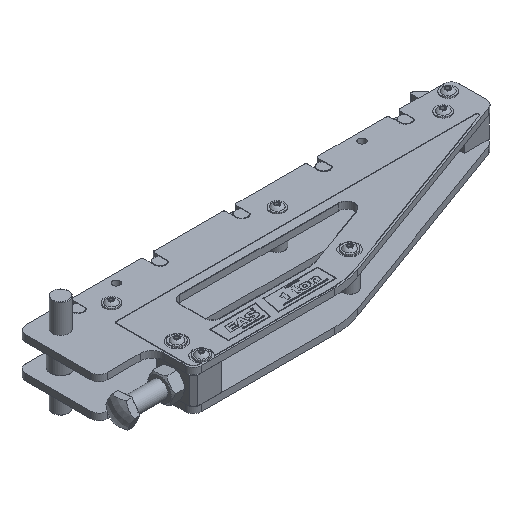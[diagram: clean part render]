
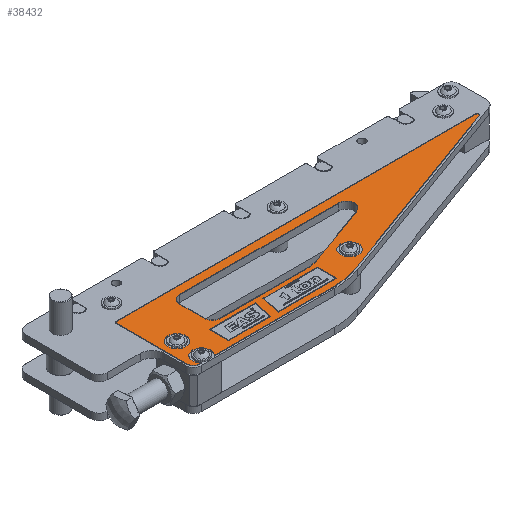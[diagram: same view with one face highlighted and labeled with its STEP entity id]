
A CAD part, isometric view. The second image highlights one B-rep face of the part: STEP entity #38432.
In plain terms, the highlighted planar face has unit normal (0, 0, 1).
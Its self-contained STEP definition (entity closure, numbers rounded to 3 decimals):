
#2291=FACE_BOUND('',#6783,.T.);
#2292=FACE_BOUND('',#6784,.T.);
#2293=FACE_BOUND('',#6785,.T.);
#2294=FACE_BOUND('',#6786,.T.);
#2295=FACE_BOUND('',#6787,.T.);
#2759=PLANE('',#40791);
#4446=FACE_OUTER_BOUND('',#6782,.T.);
#6782=EDGE_LOOP('',(#29060,#29061,#29062,#29063,#29064,#29065,#29066,#29067,
#29068,#29069));
#6783=EDGE_LOOP('',(#29070));
#6784=EDGE_LOOP('',(#29071));
#6785=EDGE_LOOP('',(#29072,#29073,#29074,#29075,#29076,#29077,#29078,#29079));
#6786=EDGE_LOOP('',(#29080,#29081,#29082,#29083));
#6787=EDGE_LOOP('',(#29084,#29085,#29086,#29087));
#9319=LINE('',#54261,#13459);
#9320=LINE('',#54265,#13460);
#9321=LINE('',#54269,#13461);
#9322=LINE('',#54273,#13462);
#9323=LINE('',#54276,#13463);
#9324=LINE('',#54285,#13464);
#9325=LINE('',#54289,#13465);
#9326=LINE('',#54293,#13466);
#9327=LINE('',#54296,#13467);
#9328=LINE('',#54299,#13468);
#9329=LINE('',#54301,#13469);
#9330=LINE('',#54303,#13470);
#9331=LINE('',#54304,#13471);
#9332=LINE('',#54307,#13472);
#9333=LINE('',#54309,#13473);
#9334=LINE('',#54311,#13474);
#9335=LINE('',#54312,#13475);
#13459=VECTOR('',#44229,438.315);
#13460=VECTOR('',#44232,86.);
#13461=VECTOR('',#44235,2.45);
#13462=VECTOR('',#44238,145.07);
#13463=VECTOR('',#44241,252.063);
#13464=VECTOR('',#44248,103.81);
#13465=VECTOR('',#44251,30.);
#13466=VECTOR('',#44254,193.287);
#13467=VECTOR('',#44257,80.661);
#13468=VECTOR('',#44258,24.025);
#13469=VECTOR('',#44259,66.405);
#13470=VECTOR('',#44260,23.5);
#13471=VECTOR('',#44261,71.4);
#13472=VECTOR('',#44262,51.122);
#13473=VECTOR('',#44263,23.5);
#13474=VECTOR('',#44264,56.117);
#13475=VECTOR('',#44265,24.025);
#17128=CIRCLE('',#40790,2.);
#17129=CIRCLE('',#40792,2.);
#17130=CIRCLE('',#40793,8.);
#17131=CIRCLE('',#40794,11.);
#17132=CIRCLE('',#40795,98.);
#17133=CIRCLE('',#40796,11.);
#17134=CIRCLE('',#40797,11.);
#17135=CIRCLE('',#40798,50.);
#17136=CIRCLE('',#40799,10.);
#17137=CIRCLE('',#40800,10.);
#17138=CIRCLE('',#40801,10.);
#18033=VERTEX_POINT('',#54254);
#18034=VERTEX_POINT('',#54256);
#18035=VERTEX_POINT('',#54260);
#18036=VERTEX_POINT('',#54262);
#18037=VERTEX_POINT('',#54264);
#18038=VERTEX_POINT('',#54266);
#18039=VERTEX_POINT('',#54268);
#18040=VERTEX_POINT('',#54270);
#18041=VERTEX_POINT('',#54272);
#18042=VERTEX_POINT('',#54274);
#18043=VERTEX_POINT('',#54277);
#18044=VERTEX_POINT('',#54279);
#18045=VERTEX_POINT('',#54281);
#18046=VERTEX_POINT('',#54282);
#18047=VERTEX_POINT('',#54284);
#18048=VERTEX_POINT('',#54286);
#18049=VERTEX_POINT('',#54288);
#18050=VERTEX_POINT('',#54290);
#18051=VERTEX_POINT('',#54292);
#18052=VERTEX_POINT('',#54294);
#18053=VERTEX_POINT('',#54297);
#18054=VERTEX_POINT('',#54298);
#18055=VERTEX_POINT('',#54300);
#18056=VERTEX_POINT('',#54302);
#18057=VERTEX_POINT('',#54305);
#18058=VERTEX_POINT('',#54306);
#18059=VERTEX_POINT('',#54308);
#18060=VERTEX_POINT('',#54310);
#22188=EDGE_CURVE('',#18033,#18034,#17128,.T.);
#22190=EDGE_CURVE('',#18033,#18035,#9319,.T.);
#22191=EDGE_CURVE('',#18036,#18035,#17129,.T.);
#22192=EDGE_CURVE('',#18036,#18037,#9320,.T.);
#22193=EDGE_CURVE('',#18037,#18038,#17130,.T.);
#22194=EDGE_CURVE('',#18038,#18039,#9321,.T.);
#22195=EDGE_CURVE('',#18039,#18040,#17131,.T.);
#22196=EDGE_CURVE('',#18040,#18041,#9322,.T.);
#22197=EDGE_CURVE('',#18041,#18042,#17132,.T.);
#22198=EDGE_CURVE('',#18042,#18034,#9323,.T.);
#22199=EDGE_CURVE('',#18043,#18043,#17133,.T.);
#22200=EDGE_CURVE('',#18044,#18044,#17134,.T.);
#22201=EDGE_CURVE('',#18045,#18046,#17135,.T.);
#22202=EDGE_CURVE('',#18047,#18045,#9324,.T.);
#22203=EDGE_CURVE('',#18048,#18047,#17136,.T.);
#22204=EDGE_CURVE('',#18049,#18048,#9325,.T.);
#22205=EDGE_CURVE('',#18050,#18049,#17137,.T.);
#22206=EDGE_CURVE('',#18051,#18050,#9326,.T.);
#22207=EDGE_CURVE('',#18052,#18051,#17138,.T.);
#22208=EDGE_CURVE('',#18046,#18052,#9327,.T.);
#22209=EDGE_CURVE('',#18053,#18054,#9328,.T.);
#22210=EDGE_CURVE('',#18054,#18055,#9329,.T.);
#22211=EDGE_CURVE('',#18055,#18056,#9330,.T.);
#22212=EDGE_CURVE('',#18056,#18053,#9331,.T.);
#22213=EDGE_CURVE('',#18057,#18058,#9332,.T.);
#22214=EDGE_CURVE('',#18058,#18059,#9333,.T.);
#22215=EDGE_CURVE('',#18059,#18060,#9334,.T.);
#22216=EDGE_CURVE('',#18060,#18057,#9335,.T.);
#29060=ORIENTED_EDGE('',*,*,#22188,.F.);
#29061=ORIENTED_EDGE('',*,*,#22190,.T.);
#29062=ORIENTED_EDGE('',*,*,#22191,.F.);
#29063=ORIENTED_EDGE('',*,*,#22192,.T.);
#29064=ORIENTED_EDGE('',*,*,#22193,.T.);
#29065=ORIENTED_EDGE('',*,*,#22194,.T.);
#29066=ORIENTED_EDGE('',*,*,#22195,.T.);
#29067=ORIENTED_EDGE('',*,*,#22196,.T.);
#29068=ORIENTED_EDGE('',*,*,#22197,.T.);
#29069=ORIENTED_EDGE('',*,*,#22198,.T.);
#29070=ORIENTED_EDGE('',*,*,#22199,.T.);
#29071=ORIENTED_EDGE('',*,*,#22200,.T.);
#29072=ORIENTED_EDGE('',*,*,#22201,.F.);
#29073=ORIENTED_EDGE('',*,*,#22202,.F.);
#29074=ORIENTED_EDGE('',*,*,#22203,.F.);
#29075=ORIENTED_EDGE('',*,*,#22204,.F.);
#29076=ORIENTED_EDGE('',*,*,#22205,.F.);
#29077=ORIENTED_EDGE('',*,*,#22206,.F.);
#29078=ORIENTED_EDGE('',*,*,#22207,.F.);
#29079=ORIENTED_EDGE('',*,*,#22208,.F.);
#29080=ORIENTED_EDGE('',*,*,#22209,.T.);
#29081=ORIENTED_EDGE('',*,*,#22210,.T.);
#29082=ORIENTED_EDGE('',*,*,#22211,.T.);
#29083=ORIENTED_EDGE('',*,*,#22212,.T.);
#29084=ORIENTED_EDGE('',*,*,#22213,.T.);
#29085=ORIENTED_EDGE('',*,*,#22214,.T.);
#29086=ORIENTED_EDGE('',*,*,#22215,.T.);
#29087=ORIENTED_EDGE('',*,*,#22216,.T.);
#38432=ADVANCED_FACE('',(#4446,#2291,#2292,#2293,#2294,#2295),#2759,.T.);
#40790=AXIS2_PLACEMENT_3D('',#54257,#44224,#44225);
#40791=AXIS2_PLACEMENT_3D('',#54259,#44227,#44228);
#40792=AXIS2_PLACEMENT_3D('',#54263,#44230,#44231);
#40793=AXIS2_PLACEMENT_3D('',#54267,#44233,#44234);
#40794=AXIS2_PLACEMENT_3D('',#54271,#44236,#44237);
#40795=AXIS2_PLACEMENT_3D('',#54275,#44239,#44240);
#40796=AXIS2_PLACEMENT_3D('',#54278,#44242,#44243);
#40797=AXIS2_PLACEMENT_3D('',#54280,#44244,#44245);
#40798=AXIS2_PLACEMENT_3D('',#54283,#44246,#44247);
#40799=AXIS2_PLACEMENT_3D('',#54287,#44249,#44250);
#40800=AXIS2_PLACEMENT_3D('',#54291,#44252,#44253);
#40801=AXIS2_PLACEMENT_3D('',#54295,#44255,#44256);
#44224=DIRECTION('center_axis',(0.,0.,-1.));
#44225=DIRECTION('ref_axis',(0.985,0.174,0.));
#44227=DIRECTION('center_axis',(0.,0.,1.));
#44228=DIRECTION('ref_axis',(1.,0.,0.));
#44229=DIRECTION('',(-1.,0.,0.));
#44230=DIRECTION('center_axis',(0.,0.,-1.));
#44231=DIRECTION('ref_axis',(-0.707,0.707,0.));
#44232=DIRECTION('',(0.,-1.,0.));
#44233=DIRECTION('center_axis',(0.,0.,1.));
#44234=DIRECTION('ref_axis',(1.,0.,0.));
#44235=DIRECTION('',(1.,0.,0.));
#44236=DIRECTION('center_axis',(0.,0.,-1.));
#44237=DIRECTION('ref_axis',(-1.,0.,0.));
#44238=DIRECTION('',(1.,0.,0.));
#44239=DIRECTION('center_axis',(0.,0.,1.));
#44240=DIRECTION('ref_axis',(0.,1.,0.));
#44241=DIRECTION('',(0.94,0.342,0.));
#44242=DIRECTION('center_axis',(0.,0.,-1.));
#44243=DIRECTION('ref_axis',(-1.,0.,0.));
#44244=DIRECTION('center_axis',(0.,0.,-1.));
#44245=DIRECTION('ref_axis',(-1.,0.,0.));
#44246=DIRECTION('center_axis',(0.,0.,1.));
#44247=DIRECTION('ref_axis',(0.174,-0.985,0.));
#44248=DIRECTION('',(1.,0.,0.));
#44249=DIRECTION('center_axis',(0.,0.,1.));
#44250=DIRECTION('ref_axis',(-0.707,-0.707,0.));
#44251=DIRECTION('',(0.,-1.,0.));
#44252=DIRECTION('center_axis',(0.,0.,1.));
#44253=DIRECTION('ref_axis',(-0.707,0.707,0.));
#44254=DIRECTION('',(-1.,0.,0.));
#44255=DIRECTION('center_axis',(0.,0.,1.));
#44256=DIRECTION('ref_axis',(0.985,0.174,0.));
#44257=DIRECTION('',(0.94,0.342,0.));
#44258=DIRECTION('',(0.208,0.978,0.));
#44259=DIRECTION('',(1.,0.,0.));
#44260=DIRECTION('',(0.,-1.,0.));
#44261=DIRECTION('',(-1.,0.,0.));
#44262=DIRECTION('',(-1.,0.,0.));
#44263=DIRECTION('',(0.,1.,0.));
#44264=DIRECTION('',(1.,0.,0.));
#44265=DIRECTION('',(-0.208,-0.978,0.));
#54254=CARTESIAN_POINT('',(507.315,98.,0.7));
#54256=CARTESIAN_POINT('',(507.999,94.121,0.7));
#54257=CARTESIAN_POINT('Origin',(507.315,96.,0.7));
#54259=CARTESIAN_POINT('Origin',(252.784,95.65,0.7));
#54260=CARTESIAN_POINT('',(69.,98.,0.7));
#54261=CARTESIAN_POINT('',(159.892,98.,0.7));
#54262=CARTESIAN_POINT('',(67.,96.,0.7));
#54263=CARTESIAN_POINT('Origin',(69.,96.,0.7));
#54264=CARTESIAN_POINT('',(67.,10.,0.7));
#54265=CARTESIAN_POINT('',(67.,52.825,0.7));
#54266=CARTESIAN_POINT('',(75.,2.,0.7));
#54267=CARTESIAN_POINT('Origin',(75.,10.,0.7));
#54268=CARTESIAN_POINT('',(77.45,2.,0.7));
#54269=CARTESIAN_POINT('',(245.202,2.,0.7));
#54270=CARTESIAN_POINT('',(92.55,2.,0.7));
#54271=CARTESIAN_POINT('Origin',(85.,10.,0.7));
#54272=CARTESIAN_POINT('',(237.62,2.,0.7));
#54273=CARTESIAN_POINT('',(245.202,2.,0.7));
#54274=CARTESIAN_POINT('',(271.138,7.91,0.7));
#54275=CARTESIAN_POINT('Origin',(237.62,100.,0.7));
#54276=CARTESIAN_POINT('',(400.894,55.137,0.7));
#54277=CARTESIAN_POINT('',(298.5,31.691,0.7));
#54278=CARTESIAN_POINT('Origin',(287.5,31.691,0.7));
#54279=CARTESIAN_POINT('',(96.,40.,0.7));
#54280=CARTESIAN_POINT('Origin',(85.,40.,0.7));
#54281=CARTESIAN_POINT('',(239.824,37.5,0.7));
#54282=CARTESIAN_POINT('',(256.925,40.515,0.7));
#54283=CARTESIAN_POINT('Origin',(239.824,87.5,0.7));
#54284=CARTESIAN_POINT('',(136.014,37.5,0.7));
#54285=CARTESIAN_POINT('',(250.712,37.5,0.7));
#54286=CARTESIAN_POINT('',(126.014,47.5,0.7));
#54287=CARTESIAN_POINT('Origin',(136.014,47.5,0.7));
#54288=CARTESIAN_POINT('',(126.014,77.5,0.7));
#54289=CARTESIAN_POINT('',(126.014,66.575,0.7));
#54290=CARTESIAN_POINT('',(136.014,87.5,0.7));
#54291=CARTESIAN_POINT('Origin',(136.014,77.5,0.7));
#54292=CARTESIAN_POINT('',(329.301,87.5,0.7));
#54293=CARTESIAN_POINT('',(189.399,87.5,0.7));
#54294=CARTESIAN_POINT('',(332.721,68.103,0.7));
#54295=CARTESIAN_POINT('Origin',(329.301,77.5,0.7));
#54296=CARTESIAN_POINT('',(328.501,66.567,0.7));
#54297=CARTESIAN_POINT('',(177.536,9.,0.7));
#54298=CARTESIAN_POINT('',(182.531,32.5,0.7));
#54299=CARTESIAN_POINT('',(187.973,58.104,0.7));
#54300=CARTESIAN_POINT('',(248.936,32.5,0.7));
#54301=CARTESIAN_POINT('',(217.657,32.5,0.7));
#54302=CARTESIAN_POINT('',(248.936,9.,0.7));
#54303=CARTESIAN_POINT('',(248.936,64.075,0.7));
#54304=CARTESIAN_POINT('',(250.86,9.,0.7));
#54305=CARTESIAN_POINT('',(168.122,9.,0.7));
#54306=CARTESIAN_POINT('',(117.,9.,0.7));
#54307=CARTESIAN_POINT('',(210.453,9.,0.7));
#54308=CARTESIAN_POINT('',(117.,32.5,0.7));
#54309=CARTESIAN_POINT('',(117.,52.325,0.7));
#54310=CARTESIAN_POINT('',(173.117,32.5,0.7));
#54311=CARTESIAN_POINT('',(184.892,32.5,0.7));
#54312=CARTESIAN_POINT('',(181.261,70.811,0.7));
